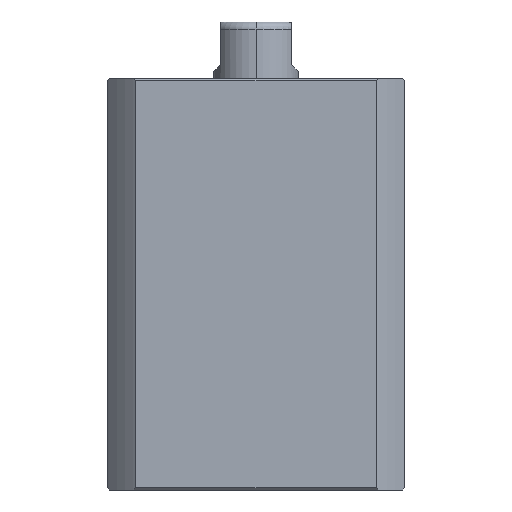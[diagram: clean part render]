
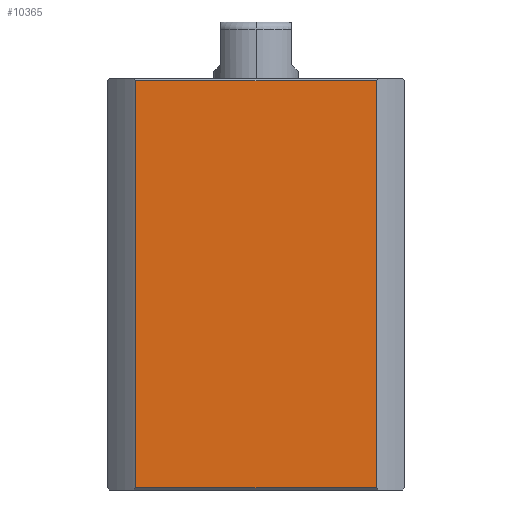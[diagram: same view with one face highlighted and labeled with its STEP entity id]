
A CAD part, left-side view. The second image highlights one B-rep face of the part: STEP entity #10365.
In plain terms, the highlighted planar face has unit normal (-1, 0, 0).
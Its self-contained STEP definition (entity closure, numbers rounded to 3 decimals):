
#34 = DIRECTION ( 'NONE',  ( 0., -1., 0. ) ) ;
#431 = DIRECTION ( 'NONE',  ( 0., 1., 0. ) ) ;
#617 = VECTOR ( 'NONE', #34, 1000. ) ;
#755 = CARTESIAN_POINT ( 'NONE',  ( -21., -16.971, -242. ) ) ;
#775 = CARTESIAN_POINT ( 'NONE',  ( -21., 16.971, 57.7 ) ) ;
#1446 = EDGE_LOOP ( 'NONE', ( #5634, #4777, #3542, #7387 ) ) ;
#1487 = LINE ( 'NONE', #3738, #617 ) ;
#1759 = EDGE_CURVE ( 'NONE', #11790, #9342, #6393, .T. ) ;
#2091 = VECTOR ( 'NONE', #8606, 1000. ) ;
#2132 = CARTESIAN_POINT ( 'NONE',  ( -21., 16.971, -242. ) ) ;
#2312 = EDGE_CURVE ( 'NONE', #7220, #4939, #11534, .T. ) ;
#3542 = ORIENTED_EDGE ( 'NONE', *, *, #2312, .F. ) ;
#3694 = CARTESIAN_POINT ( 'NONE',  ( -21., -16.971, 57.7 ) ) ;
#3738 = CARTESIAN_POINT ( 'NONE',  ( -21., 21., 0.3 ) ) ;
#4675 = CARTESIAN_POINT ( 'NONE',  ( -21., 16.971, 0.3 ) ) ;
#4777 = ORIENTED_EDGE ( 'NONE', *, *, #8439, .T. ) ;
#4939 = VERTEX_POINT ( 'NONE', #5942 ) ;
#4995 = FACE_OUTER_BOUND ( 'NONE', #1446, .T. ) ;
#5634 = ORIENTED_EDGE ( 'NONE', *, *, #1759, .F. ) ;
#5942 = CARTESIAN_POINT ( 'NONE',  ( -21., -16.971, 0.3 ) ) ;
#5989 = PLANE ( 'NONE',  #6758 ) ;
#6030 = DIRECTION ( 'NONE',  ( 1., 0., 0. ) ) ;
#6393 = LINE ( 'NONE', #2132, #11395 ) ;
#6475 = EDGE_CURVE ( 'NONE', #7220, #9342, #9862, .T. ) ;
#6758 = AXIS2_PLACEMENT_3D ( 'NONE', #10714, #6030, #431 ) ;
#7220 = VERTEX_POINT ( 'NONE', #3694 ) ;
#7387 = ORIENTED_EDGE ( 'NONE', *, *, #6475, .T. ) ;
#7688 = CARTESIAN_POINT ( 'NONE',  ( -21., 21., 57.7 ) ) ;
#7769 = DIRECTION ( 'NONE',  ( 0., 0., 1. ) ) ;
#8439 = EDGE_CURVE ( 'NONE', #11790, #4939, #1487, .T. ) ;
#8606 = DIRECTION ( 'NONE',  ( 0., 1., 0. ) ) ;
#9012 = VECTOR ( 'NONE', #9092, 1000. ) ;
#9092 = DIRECTION ( 'NONE',  ( 0., 0., -1. ) ) ;
#9342 = VERTEX_POINT ( 'NONE', #775 ) ;
#9862 = LINE ( 'NONE', #7688, #2091 ) ;
#10365 = ADVANCED_FACE ( 'NONE', ( #4995 ), #5989, .F. ) ;
#10714 = CARTESIAN_POINT ( 'NONE',  ( -21., 21., 58. ) ) ;
#11395 = VECTOR ( 'NONE', #7769, 1000. ) ;
#11534 = LINE ( 'NONE', #755, #9012 ) ;
#11790 = VERTEX_POINT ( 'NONE', #4675 ) ;
